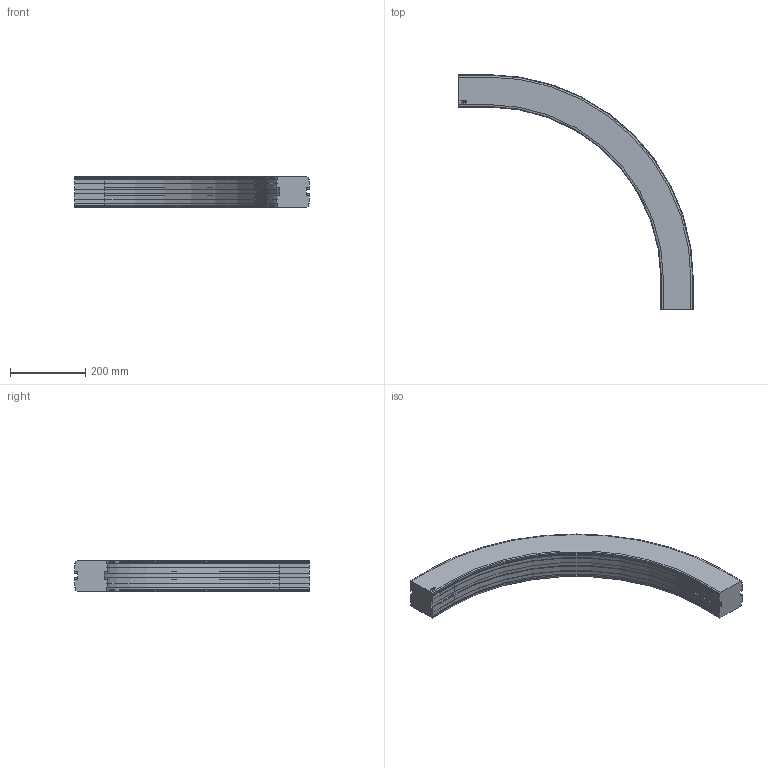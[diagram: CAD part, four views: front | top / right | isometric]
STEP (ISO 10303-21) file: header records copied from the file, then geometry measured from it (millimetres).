
FILE_DESCRIPTION((''),'2;1');
FILE_NAME('C:\Vault Klient\Projekt\Koncept konstruktion\Serie 830 Balk\830-5310.stp','2009-11-27T10:17:48',('Mathias'),(''),'Autodesk Inventor 2010','Autodesk Inventor 2010','');
FILE_SCHEMA(('AUTOMOTIVE_DESIGN { 1 0 10303 214 1 1 1 1 }'));
Length unit declared in the file: millimetre
Products named in the file (1): 830-5310
Bounding box: 623 x 623 x 81.5 mm (x, y, z)
Volume: 6283950.3 mm3; surface area: 399586.8 mm2
Topology: 1 solids, 1 shells, 169 faces, 446 edges, 284 vertices
Faces by surface type: plane 109, cylinder 30, bspline 14, cone 12, torus 4
Entity records: 5295 total; most frequent: CARTESIAN_POINT 1094, ORIENTED_EDGE 892, DIRECTION 802, EDGE_CURVE 446, VECTOR 346, LINE 346, VERTEX_POINT 284, AXIS2_PLACEMENT_3D 228
